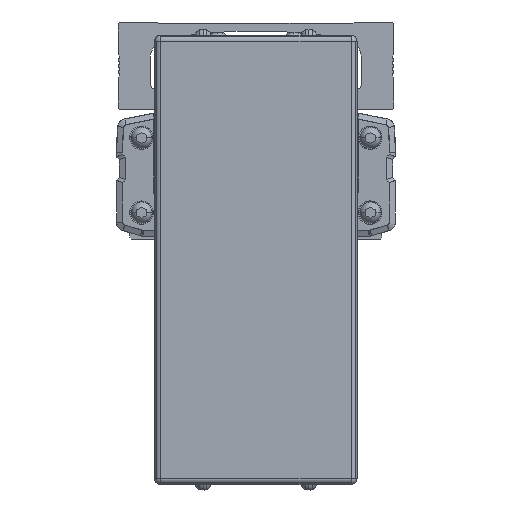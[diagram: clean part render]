
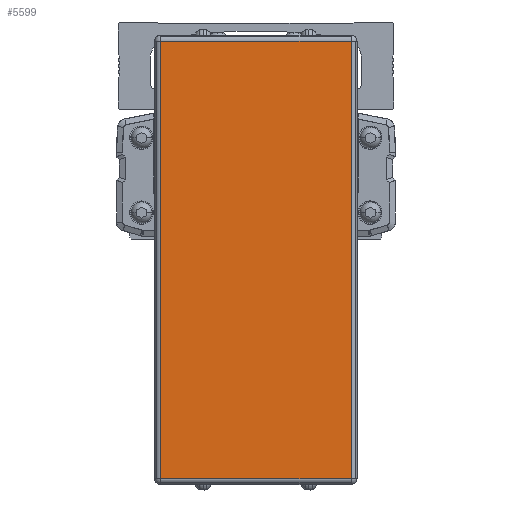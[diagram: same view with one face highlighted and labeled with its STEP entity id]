
A CAD part, front view. The second image highlights one B-rep face of the part: STEP entity #5599.
In plain terms, the highlighted planar face has unit normal (0, -1, 0).
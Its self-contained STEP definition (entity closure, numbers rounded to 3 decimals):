
#5599=ADVANCED_FACE('',(#11501),#11502,.T.);
#11501=FACE_OUTER_BOUND('',#18806,.T.);
#11502=PLANE('',#18807);
#18806=EDGE_LOOP('',(#35831,#35832,#35833,#35834));
#18807=AXIS2_PLACEMENT_3D('',#35835,#35836,#35837);
#35831=ORIENTED_EDGE('',*,*,#45067,.F.);
#35832=ORIENTED_EDGE('',*,*,#45068,.F.);
#35833=ORIENTED_EDGE('',*,*,#45069,.F.);
#35834=ORIENTED_EDGE('',*,*,#45070,.F.);
#35835=CARTESIAN_POINT('',(0.,10.222,-50.1));
#35836=DIRECTION('',(0.0,-1.0,0.));
#35837=DIRECTION('',(1.0,0.0,0.0));
#45067=EDGE_CURVE('',#55489,#55490,#55491,.T.);
#45068=EDGE_CURVE('',#55492,#55489,#55493,.T.);
#45069=EDGE_CURVE('',#55494,#55492,#55495,.T.);
#45070=EDGE_CURVE('',#55490,#55494,#55496,.T.);
#55489=VERTEX_POINT('',#70952);
#55490=VERTEX_POINT('',#70953);
#55491=LINE('',#70954,#70955);
#55492=VERTEX_POINT('',#70956);
#55493=LINE('',#70957,#70958);
#55494=VERTEX_POINT('',#70959);
#55495=LINE('',#70960,#70961);
#55496=LINE('',#70962,#70963);
#70952=CARTESIAN_POINT('',(32.5,10.222,24.5));
#70953=CARTESIAN_POINT('',(32.5,10.222,-124.7));
#70954=CARTESIAN_POINT('',(32.5,10.222,-50.1));
#70955=VECTOR('',#79252,10.0);
#70956=CARTESIAN_POINT('',(-32.5,10.222,24.5));
#70957=CARTESIAN_POINT('',(0.,10.222,24.5));
#70958=VECTOR('',#79253,10.0);
#70959=CARTESIAN_POINT('',(-32.5,10.222,-124.7));
#70960=CARTESIAN_POINT('',(-32.5,10.222,-50.1));
#70961=VECTOR('',#79254,10.0);
#70962=CARTESIAN_POINT('',(0.,10.222,-124.7));
#70963=VECTOR('',#79255,10.0);
#79252=DIRECTION('',(0.0,0.,-1.0));
#79253=DIRECTION('',(1.0,0.0,0.0));
#79254=DIRECTION('',(0.0,0.,1.0));
#79255=DIRECTION('',(-1.0,0.0,0.0));
